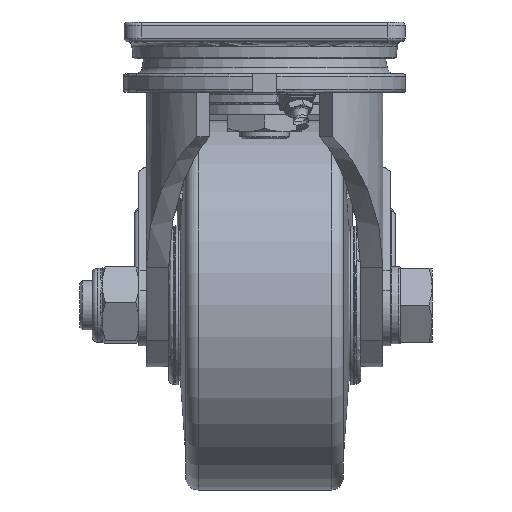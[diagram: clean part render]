
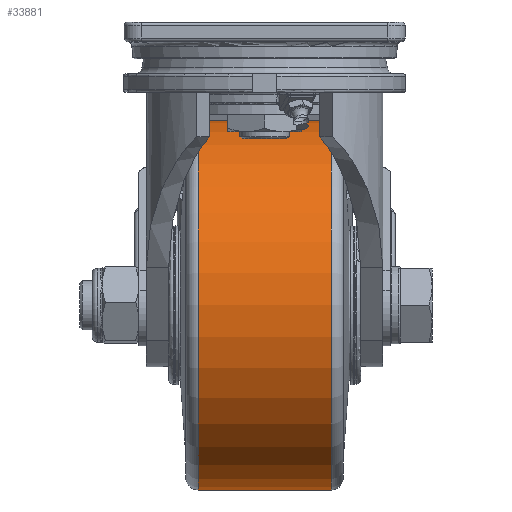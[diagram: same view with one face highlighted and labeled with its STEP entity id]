
A CAD part, left-side view. The second image highlights one B-rep face of the part: STEP entity #33881.
In plain terms, the highlighted cylindrical face has radius 75 mm (diameter 150 mm), a full revolution.
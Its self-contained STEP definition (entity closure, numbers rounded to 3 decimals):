
#2806=LINE('',#48632,#5390);
#5390=VECTOR('',#39458,75.);
#7905=CYLINDRICAL_SURFACE('',#36026,75.);
#8498=FACE_OUTER_BOUND('',#10530,.T.);
#10530=EDGE_LOOP('',(#23315,#23316,#23317,#23318,#23319,#23320));
#12719=CIRCLE('',#35999,75.);
#12720=CIRCLE('',#36000,75.);
#12734=CIRCLE('',#36023,75.);
#12735=CIRCLE('',#36024,75.);
#14340=VERTEX_POINT('',#48580);
#14341=VERTEX_POINT('',#48582);
#14355=VERTEX_POINT('',#48626);
#14356=VERTEX_POINT('',#48627);
#17810=EDGE_CURVE('',#14340,#14341,#12719,.T.);
#17811=EDGE_CURVE('',#14341,#14340,#12720,.T.);
#17831=EDGE_CURVE('',#14355,#14356,#12734,.T.);
#17832=EDGE_CURVE('',#14356,#14355,#12735,.T.);
#17834=EDGE_CURVE('',#14341,#14355,#2806,.T.);
#23315=ORIENTED_EDGE('',*,*,#17811,.F.);
#23316=ORIENTED_EDGE('',*,*,#17834,.T.);
#23317=ORIENTED_EDGE('',*,*,#17831,.T.);
#23318=ORIENTED_EDGE('',*,*,#17832,.T.);
#23319=ORIENTED_EDGE('',*,*,#17834,.F.);
#23320=ORIENTED_EDGE('',*,*,#17810,.F.);
#33881=ADVANCED_FACE('',(#8498),#7905,.T.);
#35999=AXIS2_PLACEMENT_3D('',#48583,#39396,#39397);
#36000=AXIS2_PLACEMENT_3D('',#48584,#39398,#39399);
#36023=AXIS2_PLACEMENT_3D('',#48628,#39450,#39451);
#36024=AXIS2_PLACEMENT_3D('',#48629,#39452,#39453);
#36026=AXIS2_PLACEMENT_3D('',#48631,#39456,#39457);
#39396=DIRECTION('center_axis',(0.,-1.,0.));
#39397=DIRECTION('ref_axis',(1.,0.,0.));
#39398=DIRECTION('center_axis',(0.,-1.,0.));
#39399=DIRECTION('ref_axis',(1.,0.,0.));
#39450=DIRECTION('center_axis',(0.,-1.,0.));
#39451=DIRECTION('ref_axis',(1.,0.,0.));
#39452=DIRECTION('center_axis',(0.,-1.,0.));
#39453=DIRECTION('ref_axis',(1.,0.,0.));
#39456=DIRECTION('center_axis',(0.,-1.,0.));
#39457=DIRECTION('ref_axis',(0.,0.,1.));
#39458=DIRECTION('',(0.,1.,0.));
#48580=CARTESIAN_POINT('',(52.,-27.,-10.));
#48582=CARTESIAN_POINT('',(52.,-27.,-160.));
#48583=CARTESIAN_POINT('Origin',(52.,-27.,-85.));
#48584=CARTESIAN_POINT('Origin',(52.,-27.,-85.));
#48626=CARTESIAN_POINT('',(52.,27.,-160.));
#48627=CARTESIAN_POINT('',(52.,27.,-10.));
#48628=CARTESIAN_POINT('Origin',(52.,27.,-85.));
#48629=CARTESIAN_POINT('Origin',(52.,27.,-85.));
#48631=CARTESIAN_POINT('Origin',(52.,0.,
-85.));
#48632=CARTESIAN_POINT('',(52.,0.,-160.));
